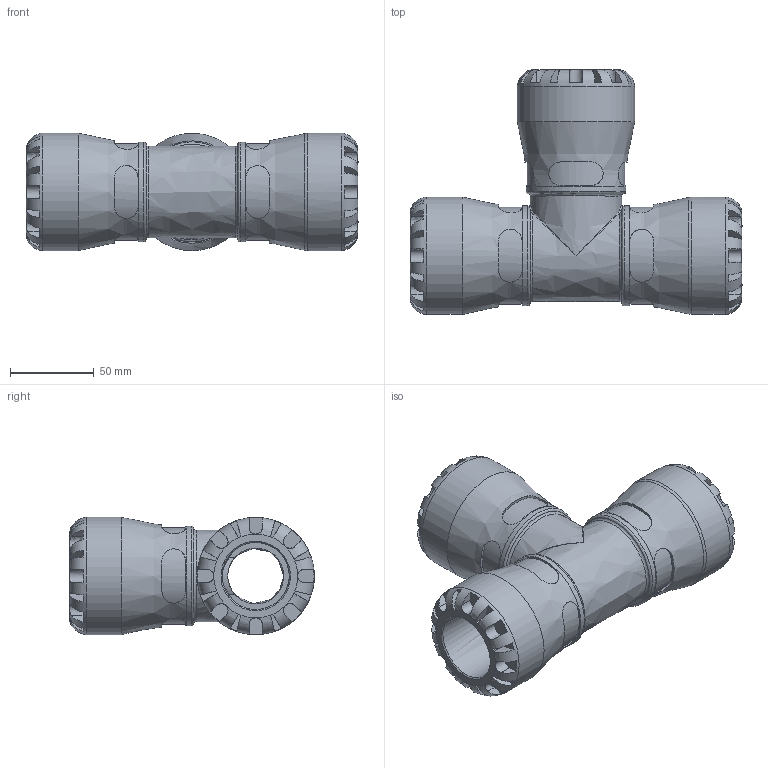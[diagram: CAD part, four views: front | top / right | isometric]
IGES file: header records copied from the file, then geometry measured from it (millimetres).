
Global section: file name: 150400040; native system: Autodesk Inventor 2019; preprocessor: unknown; author: KIM; date: 20231017.192342; units: millimetre
Bounding box: 198 x 146 x 70 mm (x, y, z)
Volume: 527623.8 mm3; surface area: 103025.1 mm2
Topology: 1 solids, 1 shells, 298 faces, 795 edges, 505 vertices
Faces by surface type: bspline 298
